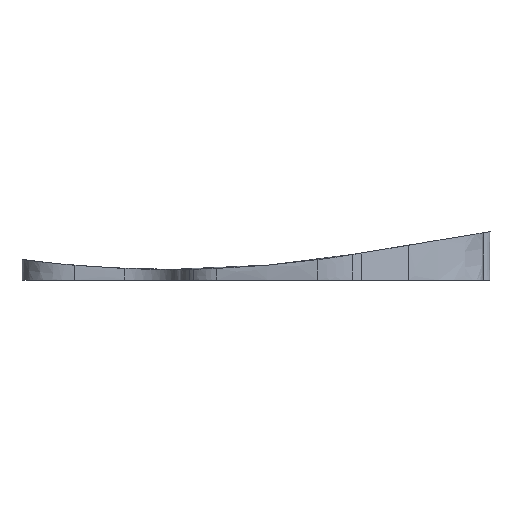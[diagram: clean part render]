
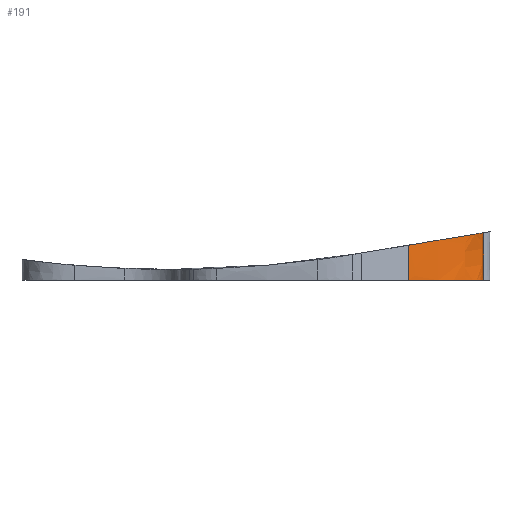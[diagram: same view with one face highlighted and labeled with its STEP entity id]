
A CAD part, front view. The second image highlights one B-rep face of the part: STEP entity #191.
In plain terms, the highlighted face is a extrusion surface.
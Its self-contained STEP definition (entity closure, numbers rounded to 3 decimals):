
#43=VECTOR('Line Direction',#42,1.) ;
#107=VECTOR('Extrusion Surface Vector',#106,1.) ;
#111=VECTOR('Line Direction',#110,1.) ;
#42=DIRECTION('Vector Direction',(0.,0.,-1.)) ;
#106=DIRECTION('Vector Direction',(0.,0.,-1.)) ;
#110=DIRECTION('Vector Direction',(0.,0.,-1.)) ;
#41=CARTESIAN_POINT('Line Origine',(946.992,-751.722,484.67)) ;
#45=CARTESIAN_POINT('Vertex',(946.992,-751.722,493.201)) ;
#47=CARTESIAN_POINT('Vertex',(946.992,-751.722,476.138)) ;
#85=CARTESIAN_POINT('Control Point',(946.992,-751.722,493.201)) ;
#86=CARTESIAN_POINT('Control Point',(946.992,-752.249,493.201)) ;
#87=CARTESIAN_POINT('Control Point',(946.929,-752.776,493.191)) ;
#88=CARTESIAN_POINT('Control Point',(946.804,-753.292,493.17)) ;
#89=CARTESIAN_POINT('Control Point',(946.384,-754.467,493.101)) ;
#90=CARTESIAN_POINT('Control Point',(945.727,-755.53,492.992)) ;
#91=CARTESIAN_POINT('Control Point',(945.291,-756.103,492.919)) ;
#92=CARTESIAN_POINT('Control Point',(944.132,-757.419,492.727)) ;
#93=CARTESIAN_POINT('Control Point',(942.792,-758.551,492.505)) ;
#94=CARTESIAN_POINT('Control Point',(941.964,-759.171,492.368)) ;
#95=CARTESIAN_POINT('Control Point',(939.81,-760.631,492.011)) ;
#96=CARTESIAN_POINT('Control Point',(937.526,-761.878,491.633)) ;
#97=CARTESIAN_POINT('Control Point',(936.129,-762.571,491.401)) ;
#98=CARTESIAN_POINT('Control Point',(932.582,-764.191,490.814)) ;
#99=CARTESIAN_POINT('Control Point',(928.938,-765.577,490.21)) ;
#100=CARTESIAN_POINT('Control Point',(926.743,-766.343,489.846)) ;
#101=CARTESIAN_POINT('Control Point',(924.071,-767.209,489.403)) ;
#102=CARTESIAN_POINT('Control Point',(921.38,-768.013,488.957)) ;
#103=CARTESIAN_POINT('Control Point',(920.924,-768.147,488.882)) ;
#104=CARTESIAN_POINT('Control Point',(920.466,-768.28,488.806)) ;
#105=CARTESIAN_POINT('Control Point',(920.009,-768.412,488.73)) ;
#109=CARTESIAN_POINT('Line Origine',(920.009,-768.412,488.73)) ;
#113=CARTESIAN_POINT('Vertex',(920.009,-768.412,488.73)) ;
#115=CARTESIAN_POINT('Vertex',(920.008,-768.412,476.139)) ;
#119=CARTESIAN_POINT('Control Point',(946.992,-751.722,476.138)) ;
#120=CARTESIAN_POINT('Control Point',(946.992,-752.166,476.138)) ;
#121=CARTESIAN_POINT('Control Point',(946.947,-752.609,476.138)) ;
#122=CARTESIAN_POINT('Control Point',(946.858,-753.047,476.138)) ;
#123=CARTESIAN_POINT('Control Point',(946.6,-753.903,476.138)) ;
#124=CARTESIAN_POINT('Control Point',(946.208,-754.704,476.138)) ;
#125=CARTESIAN_POINT('Control Point',(945.984,-755.088,476.138)) ;
#126=CARTESIAN_POINT('Control Point',(945.451,-755.889,476.138)) ;
#127=CARTESIAN_POINT('Control Point',(944.831,-756.622,476.138)) ;
#128=CARTESIAN_POINT('Control Point',(944.478,-756.999,476.138)) ;
#129=CARTESIAN_POINT('Control Point',(943.438,-758.018,476.139)) ;
#130=CARTESIAN_POINT('Control Point',(942.299,-758.921,476.139)) ;
#131=CARTESIAN_POINT('Control Point',(941.54,-759.464,476.139)) ;
#132=CARTESIAN_POINT('Control Point',(940.349,-760.246,476.138)) ;
#133=CARTESIAN_POINT('Control Point',(939.122,-760.967,476.138)) ;
#134=CARTESIAN_POINT('Control Point',(938.71,-761.2,476.138)) ;
#135=CARTESIAN_POINT('Control Point',(937.893,-761.648,476.138)) ;
#136=CARTESIAN_POINT('Control Point',(937.067,-762.075,476.139)) ;
#137=CARTESIAN_POINT('Control Point',(936.646,-762.287,476.139)) ;
#138=CARTESIAN_POINT('Control Point',(934.669,-763.251,476.139)) ;
#139=CARTESIAN_POINT('Control Point',(932.658,-764.119,476.139)) ;
#140=CARTESIAN_POINT('Control Point',(931.08,-764.751,476.138)) ;
#141=CARTESIAN_POINT('Control Point',(927.968,-765.916,476.139)) ;
#142=CARTESIAN_POINT('Control Point',(924.803,-766.969,476.139)) ;
#143=CARTESIAN_POINT('Control Point',(923.179,-767.481,476.139)) ;
#144=CARTESIAN_POINT('Control Point',(921.596,-767.956,476.139)) ;
#145=CARTESIAN_POINT('Control Point',(920.008,-768.412,476.139)) ;
#148=CARTESIAN_POINT('Control Point',(946.992,-751.722,493.201)) ;
#149=CARTESIAN_POINT('Control Point',(946.992,-752.056,493.201)) ;
#150=CARTESIAN_POINT('Control Point',(946.967,-752.391,493.197)) ;
#151=CARTESIAN_POINT('Control Point',(946.916,-752.728,493.189)) ;
#152=CARTESIAN_POINT('Control Point',(946.763,-753.395,493.163)) ;
#153=CARTESIAN_POINT('Control Point',(946.521,-754.037,493.123)) ;
#154=CARTESIAN_POINT('Control Point',(946.381,-754.346,493.1)) ;
#155=CARTESIAN_POINT('Control Point',(946.145,-754.801,493.061)) ;
#156=CARTESIAN_POINT('Control Point',(945.877,-755.235,493.016)) ;
#157=CARTESIAN_POINT('Control Point',(945.785,-755.375,493.001)) ;
#158=CARTESIAN_POINT('Control Point',(945.603,-755.641,492.971)) ;
#159=CARTESIAN_POINT('Control Point',(945.411,-755.9,492.939)) ;
#160=CARTESIAN_POINT('Control Point',(945.309,-756.031,492.922)) ;
#161=CARTESIAN_POINT('Control Point',(944.988,-756.43,492.869)) ;
#162=CARTESIAN_POINT('Control Point',(944.646,-756.811,492.813)) ;
#163=CARTESIAN_POINT('Control Point',(944.414,-757.054,492.774)) ;
#164=CARTESIAN_POINT('Control Point',(943.236,-758.219,492.579)) ;
#165=CARTESIAN_POINT('Control Point',(941.925,-759.224,492.362)) ;
#166=CARTESIAN_POINT('Control Point',(940.825,-759.965,492.179)) ;
#167=CARTESIAN_POINT('Control Point',(939.152,-760.979,491.902)) ;
#168=CARTESIAN_POINT('Control Point',(937.422,-761.896,491.616)) ;
#169=CARTESIAN_POINT('Control Point',(936.838,-762.194,491.519)) ;
#170=CARTESIAN_POINT('Control Point',(935.653,-762.774,491.322)) ;
#171=CARTESIAN_POINT('Control Point',(934.447,-763.324,491.122)) ;
#172=CARTESIAN_POINT('Control Point',(933.836,-763.593,491.021)) ;
#173=CARTESIAN_POINT('Control Point',(932.404,-764.205,490.784)) ;
#174=CARTESIAN_POINT('Control Point',(930.958,-764.781,490.544)) ;
#175=CARTESIAN_POINT('Control Point',(930.001,-765.151,490.386)) ;
#176=CARTESIAN_POINT('Control Point',(927.946,-765.906,490.045)) ;
#177=CARTESIAN_POINT('Control Point',(925.874,-766.609,489.702)) ;
#178=CARTESIAN_POINT('Control Point',(924.898,-766.927,489.54)) ;
#179=CARTESIAN_POINT('Control Point',(923.417,-767.398,489.295)) ;
#180=CARTESIAN_POINT('Control Point',(921.928,-767.851,489.048)) ;
#181=CARTESIAN_POINT('Control Point',(921.289,-768.041,488.942)) ;
#182=CARTESIAN_POINT('Control Point',(920.649,-768.228,488.836)) ;
#183=CARTESIAN_POINT('Control Point',(920.009,-768.412,488.73)) ;
#49=EDGE_CURVE('',#46,#48,#44,.T.) ;
#117=EDGE_CURVE('',#114,#116,#112,.T.) ;
#146=EDGE_CURVE('',#48,#116,#118,.T.) ;
#184=EDGE_CURVE('',#46,#114,#147,.T.) ;
#186=ORIENTED_EDGE('',*,*,#117,.T.) ;
#187=ORIENTED_EDGE('',*,*,#146,.F.) ;
#188=ORIENTED_EDGE('',*,*,#49,.F.) ;
#189=ORIENTED_EDGE('',*,*,#184,.T.) ;
#44=LINE('Line',#41,#43) ;
#112=LINE('Line',#109,#111) ;
#191=ADVANCED_FACE('SHT0018182-2.0\X2\5EA776C6\X0\ CNC\X2\9A8C8BC153D16CE1821290026027\X0\-000',(#190),#108,.T.) ;
#108=SURFACE_OF_LINEAR_EXTRUSION('generated tabulated cylinder',#84,#107) ;
#46=VERTEX_POINT('',#45) ;
#48=VERTEX_POINT('',#47) ;
#114=VERTEX_POINT('',#113) ;
#116=VERTEX_POINT('',#115) ;
#84=B_SPLINE_CURVE_WITH_KNOTS('',5,(#85,#86,#87,#88,#89,#90,#91,#92,#93,#94,#95,#96,#97,#98,#99,#100,#101,#102,#103,#104,#105),.UNSPECIFIED.,.F.,.U.,(6,3,3,3,3,3,6),(0.,2.637,6.227,11.447,19.361,31.172,33.584),.UNSPECIFIED.) ;
#118=B_SPLINE_CURVE_WITH_KNOTS('',5,(#119,#120,#121,#122,#123,#124,#125,#126,#127,#128,#129,#130,#131,#132,#133,#134,#135,#136,#137,#138,#139,#140,#141,#142,#143,#144,#145),.UNSPECIFIED.,.F.,.U.,(6,3,3,3,3,3,3,3,6),(0.,3.11,6.22,9.878,16.532,20.011,23.491,35.759,47.566),.UNSPECIFIED.) ;
#147=B_SPLINE_CURVE_WITH_KNOTS('',5,(#148,#149,#150,#151,#152,#153,#154,#155,#156,#157,#158,#159,#160,#161,#162,#163,#164,#165,#166,#167,#168,#169,#170,#171,#172,#173,#174,#175,#176,#177,#178,#179,#180,#181,#182,#183),.UNSPECIFIED.,.F.,.U.,(6,3,3,3,3,3,3,3,3,3,3,6),(0.,2.36,4.719,5.967,7.215,9.596,18.998,23.722,28.48,34.835,41.189,45.952),.UNSPECIFIED.) ;
#185=EDGE_LOOP('',(#186,#187,#188,#189)) ;
#190=FACE_OUTER_BOUND('',#185,.T.) ;
